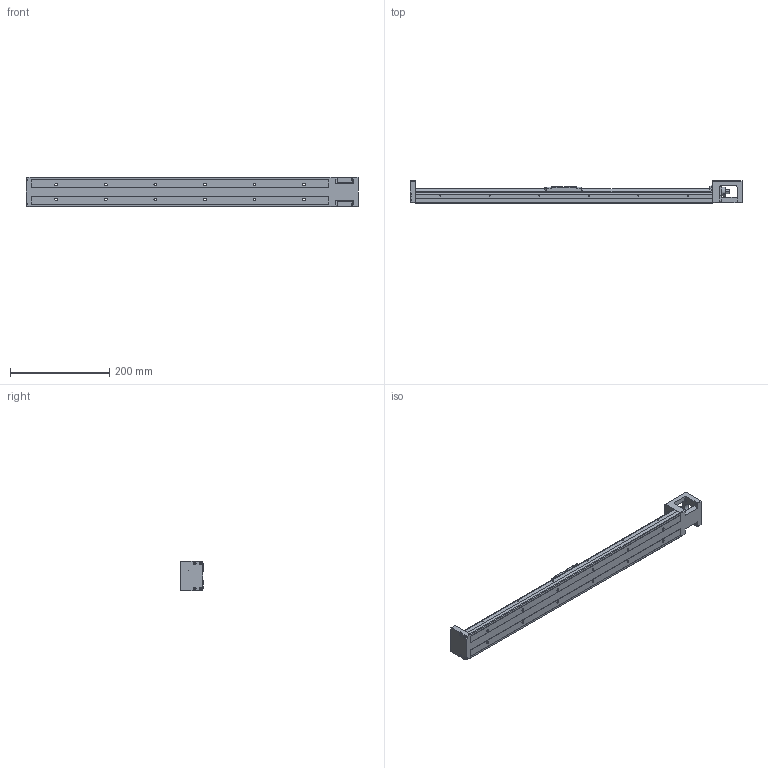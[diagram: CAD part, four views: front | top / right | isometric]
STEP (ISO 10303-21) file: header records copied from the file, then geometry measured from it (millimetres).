
FILE_DESCRIPTION (( 'STEP AP203' ), '1' );
FILE_NAME ('HKK60D10C600A1F0.stp', '2021-11-25T02:17:47', ( '' ), ( '' ), 'SwSTEP 2.0', 'SolidWorks 2018', '' );
FILE_SCHEMA (( 'CONFIG_CONTROL_DESIGN' ));
Length unit declared in the file: millimetre
Products named in the file (1): HKK60D10C600A1F0
Bounding box: 670 x 44.5 x 60 mm (x, y, z)
Volume: 645230.7 mm3; surface area: 180742.1 mm2
Topology: 2 solids, 2 shells, 587 faces, 1558 edges, 995 vertices
Faces by surface type: plane 320, cylinder 207, cone 50, torus 8, sphere 2
Entity records: 18307 total; most frequent: CARTESIAN_POINT 3565, DIRECTION 3050, ORIENTED_EDGE 3016, EDGE_CURVE 1508, LINE 1026, VECTOR 1026, AXIS2_PLACEMENT_3D 1012, VERTEX_POINT 995
